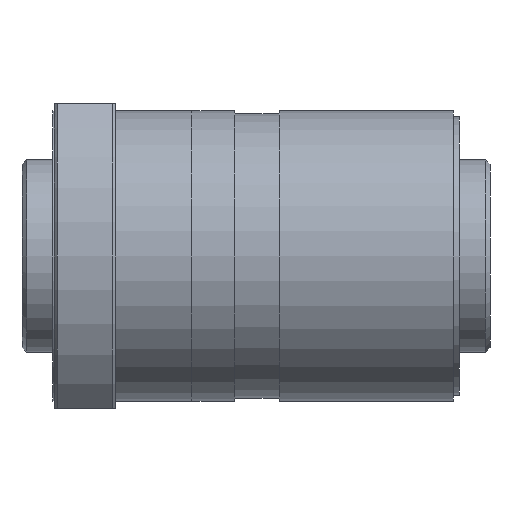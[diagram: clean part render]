
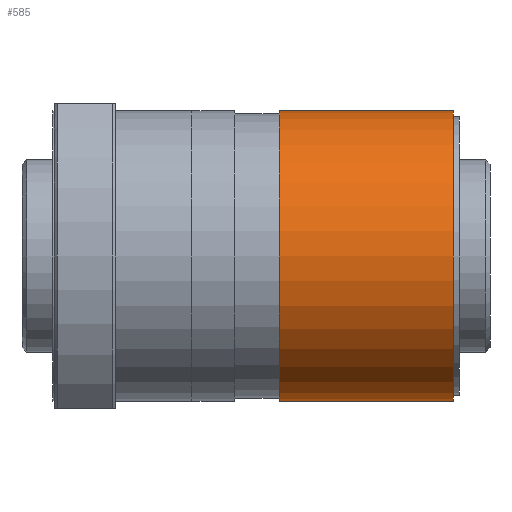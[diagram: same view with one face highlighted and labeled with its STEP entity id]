
A CAD part, front view. The second image highlights one B-rep face of the part: STEP entity #585.
In plain terms, the highlighted cylindrical face has radius 47.5 mm (diameter 95 mm), a full revolution.
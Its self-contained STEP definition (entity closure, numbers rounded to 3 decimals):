
#61=CYLINDRICAL_SURFACE('',#669,47.5);
#120=ORIENTED_EDGE('',*,*,#238,.T.);
#121=ORIENTED_EDGE('',*,*,#237,.F.);
#237=EDGE_CURVE('',#299,#299,#347,.T.);
#238=EDGE_CURVE('',#300,#300,#348,.T.);
#299=VERTEX_POINT('',#1012);
#300=VERTEX_POINT('',#1015);
#347=CIRCLE('',#668,47.5);
#348=CIRCLE('',#670,47.5);
#402=EDGE_LOOP('',(#120));
#403=EDGE_LOOP('',(#121));
#492=FACE_BOUND('',#402,.T.);
#493=FACE_BOUND('',#403,.T.);
#585=ADVANCED_FACE('',(#492,#493),#61,.T.);
#668=AXIS2_PLACEMENT_3D('',#1011,#793,#794);
#669=AXIS2_PLACEMENT_3D('',#1013,#795,#796);
#670=AXIS2_PLACEMENT_3D('',#1014,#797,#798);
#793=DIRECTION('',(1.,0.,0.));
#794=DIRECTION('',(0.,0.,-1.));
#795=DIRECTION('',(1.,0.,0.));
#796=DIRECTION('',(0.,0.,-1.));
#797=DIRECTION('',(1.,0.,0.));
#798=DIRECTION('',(0.,0.,-1.));
#1011=CARTESIAN_POINT('',(131.,0.,0.));
#1012=CARTESIAN_POINT('',(131.,0.,-47.5));
#1013=CARTESIAN_POINT('',(133.,0.,0.));
#1014=CARTESIAN_POINT('',(74.1,0.,0.));
#1015=CARTESIAN_POINT('',(74.1,0.,-47.5));
